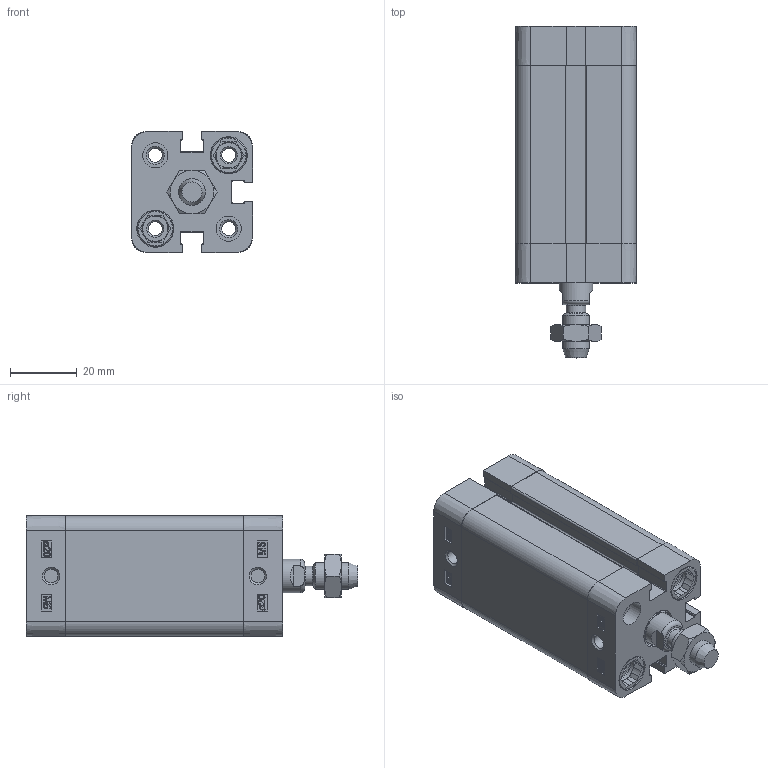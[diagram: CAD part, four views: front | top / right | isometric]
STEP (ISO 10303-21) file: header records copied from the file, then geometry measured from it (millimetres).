
FILE_DESCRIPTION(/* description */ ('Unknown'),/* implementation_level */ '2;1');
FILE_NAME(/* name */ 'ZIF 20_40',/* time_stamp */ '2025-01-27T07:41:36+01:00',/* author */ ('Unknown'),/* organization */ ('HAFNER Pneumatika Kft'),/* preprocessor_version */ 'ST-DEVELOPER v16.7',/* originating_system */ 'Solid Edge',/* authorisation */ 'Unknown');
FILE_SCHEMA (('AUTOMOTIVE_DESIGN {1 0 10303 214 3 1 1}'));
Length unit declared in the file: millimetre
Products named in the file (6): ZIF 20_40; Mutter; Profilrohr; Kolbenstange; Kit_2; Kit_1
Assembly tree (5 placements, depth 2):
  ZIF 20_40
    Mutter
    Profilrohr
    Kolbenstange
    Kit_2
    Kit_1
Bounding box: 36.3 x 99.5 x 36.3 mm (x, y, z)
Volume: 69847.3 mm3; surface area: 36830.4 mm2
Topology: 5 solids, 9 shells, 599 faces, 1597 edges, 1053 vertices
Faces by surface type: plane 291, cylinder 150, bspline 86, cone 58, torus 14
Full cylindrical faces by diameter (mm): 4.134 x10, 5.8 x1, 6.647 x1, 7.5 x4, 7.55 x4, 8 x9, 9 x1, 10 x1, 10.48 x1, 10.9 x4, 11.1 x4, 11.4 x1, 12 x1, 13.84 x1, 14 x1, 20 x2
Entity records: 22025 total; most frequent: CARTESIAN_POINT 4325, ORIENTED_EDGE 2918, DIRECTION 2662, EDGE_CURVE 1459, VERTEX_POINT 1009, AXIS2_PLACEMENT_3D 908, LINE 846, VECTOR 846
